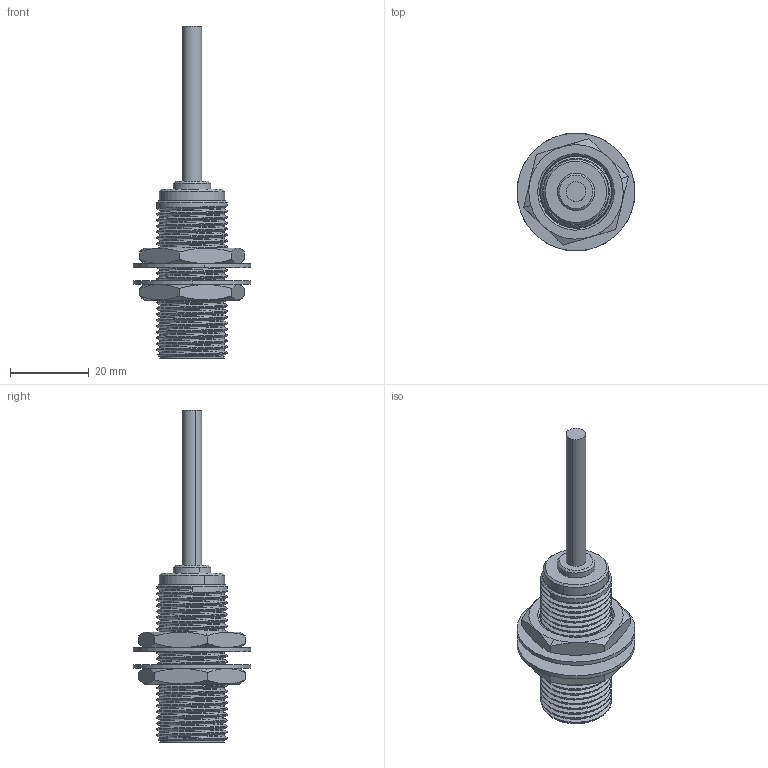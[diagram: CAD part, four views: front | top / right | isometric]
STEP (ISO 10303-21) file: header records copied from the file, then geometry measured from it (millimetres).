
FILE_DESCRIPTION (( 'STEP AP214' ), '1' );
FILE_NAME ('SN18-B-GX.STEP', '2025-09-25T01:56:59', ( 'Windows User' ), ( 'P R C' ), 'SwSTEP 2.0', 'SolidWorks 2023', '' );
FILE_SCHEMA (( 'AUTOMOTIVE_DESIGN' ));
Length unit declared in the file: millimetre
Products named in the file (9): GX-M18-埋入-带屏蔽_1; GX 18 后塞_1; 零件171_装配体55_1; LED; M18螺母; SN18-B-GX(2); SN18-B-GX; 零件170_装配体55_1; M18垫片
Assembly tree (10 placements, depth 3):
  SN18-B-GX
    SN18-B-GX(2)
      GX-M18-埋入-带屏蔽_1
      零件170_装配体55_1
      GX 18 后塞_1
      零件171_装配体55_1
    M18垫片  x2
    M18螺母  x2
    LED
Bounding box: 30 x 30 x 84.5 mm (x, y, z)
Volume: 10078.9 mm3; surface area: 13491.9 mm2
Topology: 10 solids, 10 shells, 291 faces, 700 edges, 456 vertices
Faces by surface type: cylinder 118, plane 102, cone 56, bspline 15
Entity records: 15218 total; most frequent: CARTESIAN_POINT 9313, ORIENTED_EDGE 1226, DIRECTION 1101, EDGE_CURVE 613, AXIS2_PLACEMENT_3D 430, VERTEX_POINT 399, EDGE_LOOP 292, FACE_OUTER_BOUND 256
